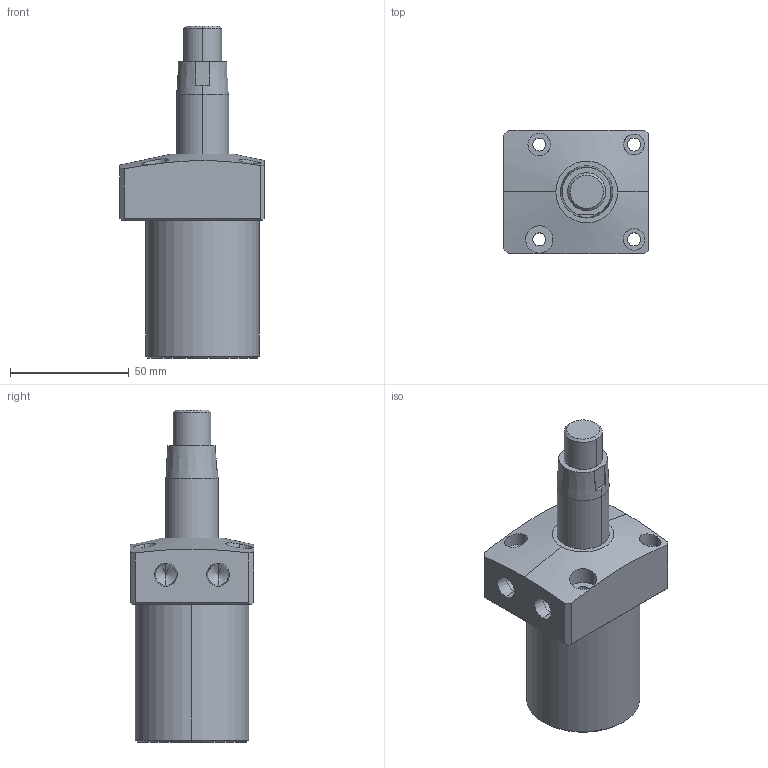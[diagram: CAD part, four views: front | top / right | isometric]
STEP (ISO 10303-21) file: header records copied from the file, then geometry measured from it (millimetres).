
FILE_DESCRIPTION (( 'STEP AP214' ), '1' );
FILE_NAME ('SC02-481-R-TOP-TAPER.STEP', '2021-08-22T06:35:18', ( '' ), ( '' ), 'SwSTEP 2.0', 'SolidWorks 2019', '' );
FILE_SCHEMA (( 'AUTOMOTIVE_DESIGN' ));
Length unit declared in the file: millimetre
Products named in the file (3): SC02-481-R-TOP-TAPER; 48-TAPER-PISTON; TOP-48-BODY
Assembly tree (2 placements, depth 2):
  SC02-481-R-TOP-TAPER
    TOP-48-BODY
    48-TAPER-PISTON
Bounding box: 61 x 52 x 140 mm (x, y, z)
Volume: 185454.1 mm3; surface area: 34843.6 mm2
Topology: 2 solids, 2 shells, 77 faces, 178 edges, 112 vertices
Faces by surface type: cylinder 32, plane 29, cone 16
Entity records: 2608 total; most frequent: CARTESIAN_POINT 728, DIRECTION 388, ORIENTED_EDGE 348, EDGE_CURVE 174, AXIS2_PLACEMENT_3D 152, VERTEX_POINT 112, EDGE_LOOP 96, LINE 84
